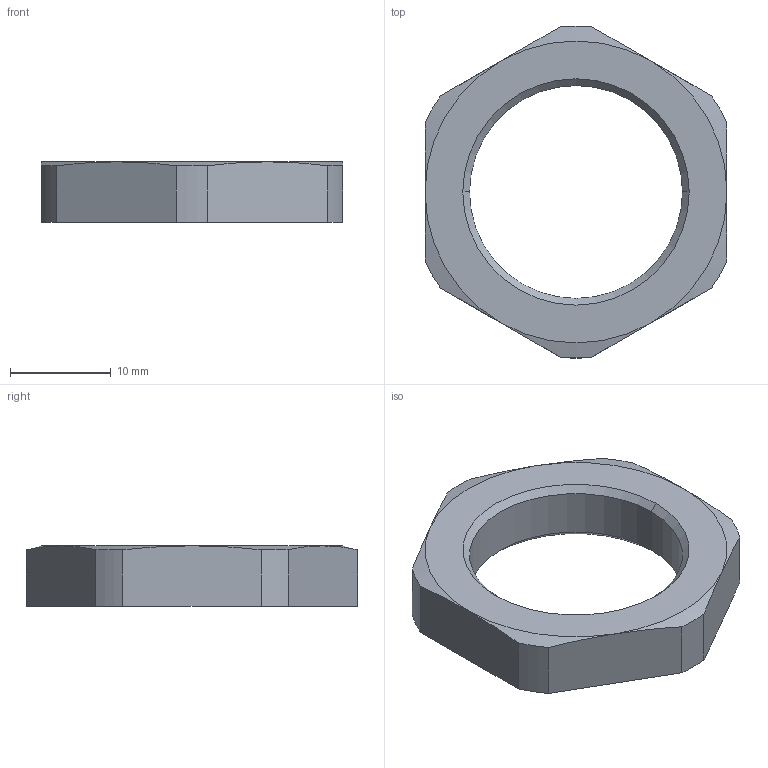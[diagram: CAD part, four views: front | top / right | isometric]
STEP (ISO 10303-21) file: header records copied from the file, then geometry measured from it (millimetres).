
FILE_DESCRIPTION (( 'STEP AP203' ), '1' );
FILE_NAME ('216 PA.STEP', '2007-01-04T09:17:46', ( ' ' ), ( '' ), 'SwSTEP 2.0', 'SolidWorks 2005278', '' );
FILE_SCHEMA (( 'CONFIG_CONTROL_DESIGN' ));
Length unit declared in the file: millimetre
Products named in the file (1): 216 PA
Bounding box: 30 x 32.98 x 6 mm (x, y, z)
Volume: 2481 mm3; surface area: 1782.1 mm2
Topology: 1 solids, 1 shells, 63 faces, 164 edges, 106 vertices
Faces by surface type: plane 45, cone 10, cylinder 8
Entity records: 2001 total; most frequent: CARTESIAN_POINT 374, ORIENTED_EDGE 328, DIRECTION 306, EDGE_CURVE 164, VECTOR 126, LINE 126, VERTEX_POINT 106, AXIS2_PLACEMENT_3D 90
